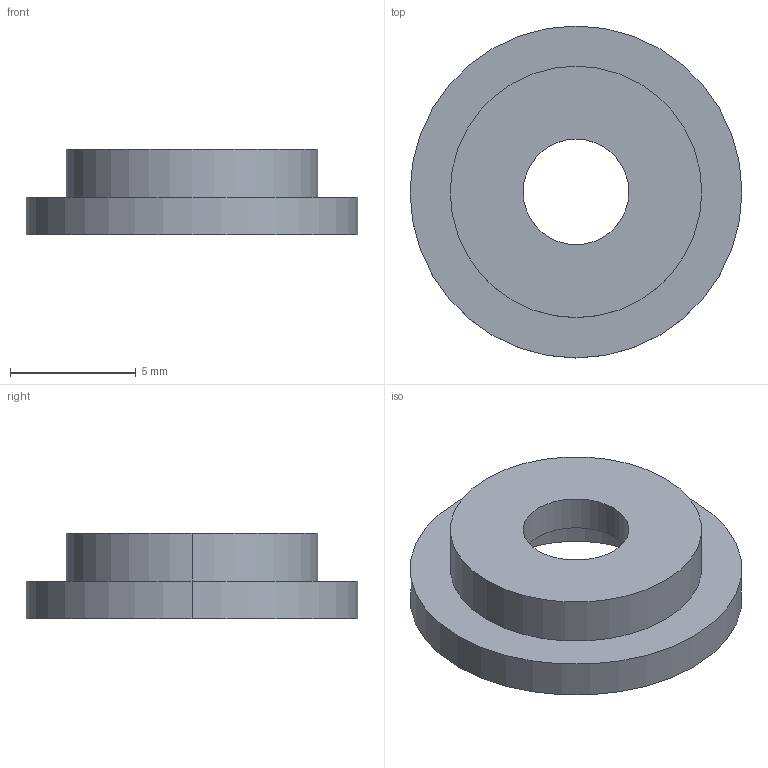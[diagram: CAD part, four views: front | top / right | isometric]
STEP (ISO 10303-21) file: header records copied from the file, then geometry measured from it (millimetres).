
FILE_DESCRIPTION (( 'STEP AP214' ), '1' );
FILE_NAME ('MN01509D02_00.STEP', '2025-02-11T08:01:18', ( '' ), ( '' ), 'SwSTEP 2.0', 'SolidWorks 2022', '' );
FILE_SCHEMA (( 'AUTOMOTIVE_DESIGN' ));
Length unit declared in the file: millimetre
Products named in the file (1): MN01509D02_00
Bounding box: 13.2 x 13.2 x 3.4 mm (x, y, z)
Volume: 234.6 mm3; surface area: 436.6 mm2
Topology: 1 solids, 1 shells, 12 faces, 24 edges, 16 vertices
Faces by surface type: cylinder 8, plane 4
Entity records: 362 total; most frequent: DIRECTION 66, CARTESIAN_POINT 53, ORIENTED_EDGE 48, AXIS2_PLACEMENT_3D 29, EDGE_CURVE 24, CIRCLE 16, EDGE_LOOP 16, VERTEX_POINT 16
